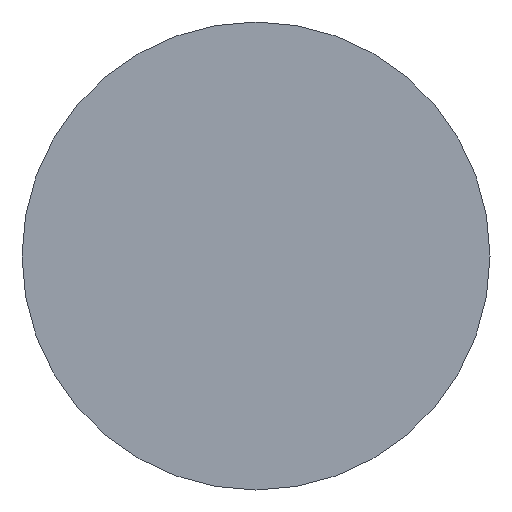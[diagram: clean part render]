
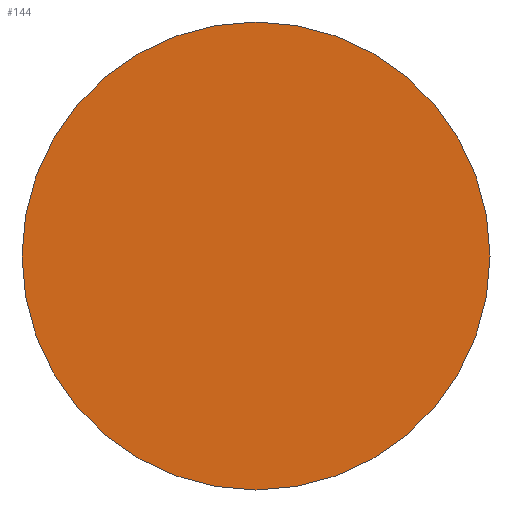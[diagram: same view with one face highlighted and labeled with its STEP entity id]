
A CAD part, left-side view. The second image highlights one B-rep face of the part: STEP entity #144.
In plain terms, the highlighted planar face has unit normal (-1, 0, 0).
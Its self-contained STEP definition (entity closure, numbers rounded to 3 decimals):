
#4 = AXIS2_PLACEMENT_3D ( 'NONE', #292, #160, #251 ) ;
#44 = CARTESIAN_POINT ( 'NONE',  ( 0., 0., -3. ) ) ;
#45 = EDGE_CURVE ( 'NONE', #240, #192, #152, .T. ) ;
#62 = ORIENTED_EDGE ( 'NONE', *, *, #45, .T. ) ;
#64 = AXIS2_PLACEMENT_3D ( 'NONE', #129, #232, #224 ) ;
#74 = EDGE_CURVE ( 'NONE', #192, #240, #266, .T. ) ;
#75 = DIRECTION ( 'NONE',  ( 1., 0., 0. ) ) ;
#81 = PLANE ( 'NONE',  #290 ) ;
#118 = FACE_OUTER_BOUND ( 'NONE', #159, .T. ) ;
#129 = CARTESIAN_POINT ( 'NONE',  ( 0., 0., 0. ) ) ;
#144 = ADVANCED_FACE ( 'NONE', ( #118 ), #81, .F. ) ;
#152 = CIRCLE ( 'NONE', #64, 3. ) ;
#157 = DIRECTION ( 'NONE',  ( 0., 0., -1. ) ) ;
#159 = EDGE_LOOP ( 'NONE', ( #185, #62 ) ) ;
#160 = DIRECTION ( 'NONE',  ( -1., 0., 0. ) ) ;
#185 = ORIENTED_EDGE ( 'NONE', *, *, #74, .T. ) ;
#189 = CARTESIAN_POINT ( 'NONE',  ( 0., 0., 0. ) ) ;
#192 = VERTEX_POINT ( 'NONE', #246 ) ;
#224 = DIRECTION ( 'NONE',  ( 0., 0., 1. ) ) ;
#232 = DIRECTION ( 'NONE',  ( -1., 0., 0. ) ) ;
#240 = VERTEX_POINT ( 'NONE', #44 ) ;
#246 = CARTESIAN_POINT ( 'NONE',  ( 0., 0., 3. ) ) ;
#251 = DIRECTION ( 'NONE',  ( 0., 0., 1. ) ) ;
#266 = CIRCLE ( 'NONE', #4, 3. ) ;
#290 = AXIS2_PLACEMENT_3D ( 'NONE', #189, #75, #157 ) ;
#292 = CARTESIAN_POINT ( 'NONE',  ( 0., 0., 0. ) ) ;
